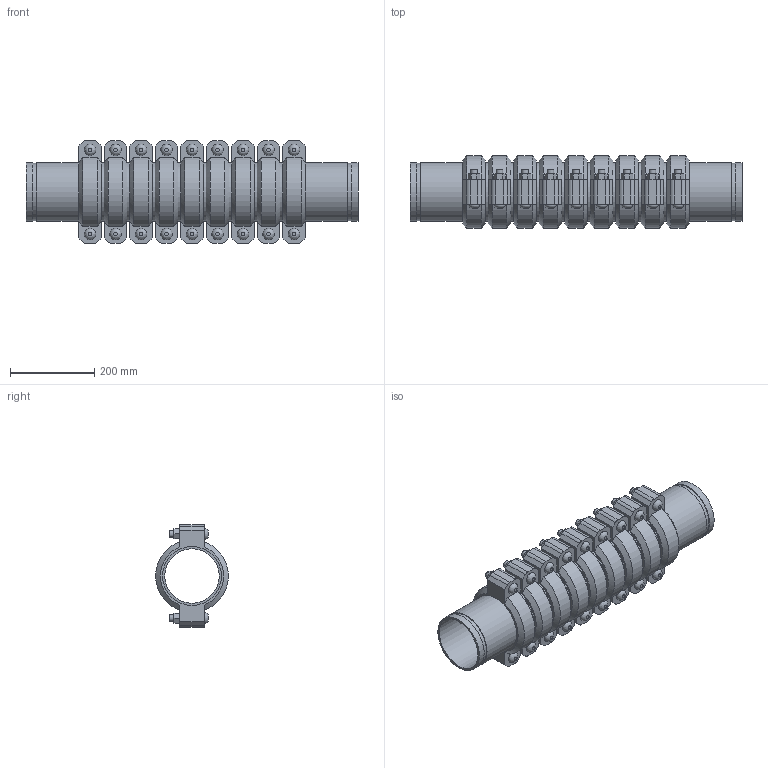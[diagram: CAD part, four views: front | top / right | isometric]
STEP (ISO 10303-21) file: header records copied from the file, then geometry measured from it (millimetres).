
FILE_DESCRIPTION(/* description */ ('VIC EXPANSION JOINT 9 COUPLINGS COMPRESSED STYLE 155 (OGS)','CAx-IF Rec.Pracs.---Representation and Presentation of Product Manufacturing Information (PMI)---4.0---2014-10-13'),/* implementation_level */ '2;1');
FILE_NAME(/* name */ 'C:\Users\kkamble\AppData\Roaming\Autodesk\ApplicationPlugins\Victaulic.Temp\A901\Victaulic_IPS_Expansion Joint_Compressed_9 Couplings_Style 155 (OGS)_05.0 (139.7) (125).stp',/* time_stamp */ '2021-06-27T00:38:40+02:00',/* author */ ('kkamble'),/* organization */ ('Victaulic'),/* preprocessor_version */ 'ST-DEVELOPER v17.2',/* originating_system */ 'Autodesk Inventor 2019',/* authorisation */ '');
FILE_SCHEMA (('AP242_MANAGED_MODEL_BASED_3D_ENGINEERING_MIM_LF { 1 0 10303 442 1 1 4 }'));
Length unit declared in the file: inch
Products named in the file (4): 155-05.0 (139.7); Nipple-05.0 (139.7); Nipple-05.0 (139.7)_1; 075_9_Coup05.0 (139.7)
Assembly tree (19 placements, depth 2):
  155-05.0 (139.7)
    Nipple-05.0 (139.7)  x2
    Nipple-05.0 (139.7)_1  x8
    075_9_Coup05.0 (139.7)  x9
Bounding box: 787.65 x 172.14 x 243.59 mm (x, y, z)
Volume: 7214957.6 mm3; surface area: 1625393.5 mm2
Topology: 19 solids, 37 shells, 633 faces, 1497 edges, 1050 vertices
Faces by surface type: plane 384, cylinder 195, cone 36, bspline 18
Full cylindrical faces by diameter (mm): 15.875 x36, 17.424 x18, 129.388 x10, 133.35 x9, 135.484 x20, 139.7 x48
Entity records: 2874 total; most frequent: CARTESIAN_POINT 503, DIRECTION 481, ORIENTED_EDGE 386, AXIS2_PLACEMENT_3D 194, EDGE_CURVE 193, VERTEX_POINT 138, EDGE_LOOP 107, LINE 93
